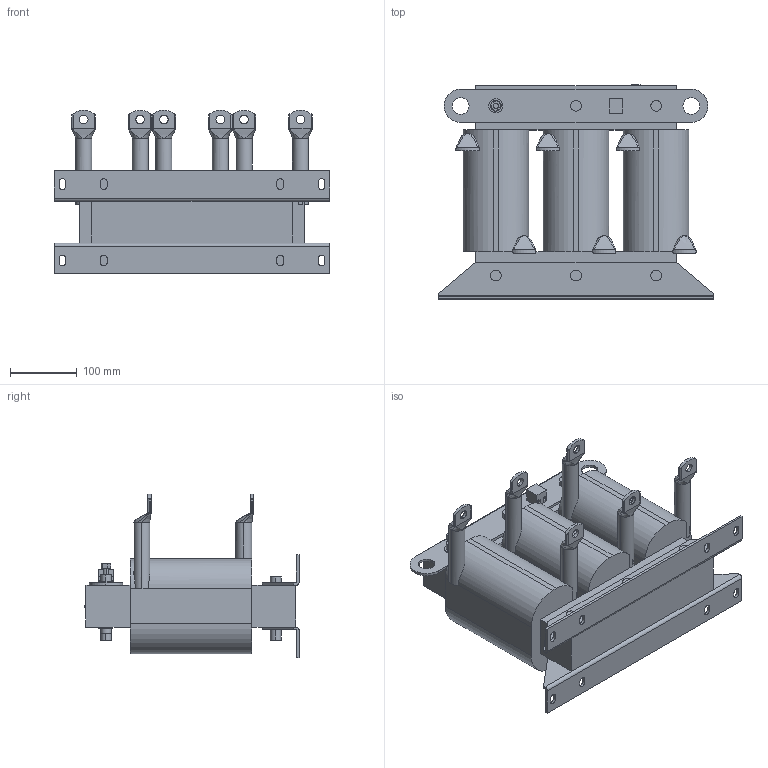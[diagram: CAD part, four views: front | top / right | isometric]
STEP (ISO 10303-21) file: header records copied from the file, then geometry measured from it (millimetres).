
FILE_DESCRIPTION (( 'STEP AP214' ), '1' );
FILE_NAME ('00Z1FX4-0029.STEP', '2022-08-11T10:11:11', ( '' ), ( '' ), 'SwSTEP 2.0', 'SolidWorks 2022', '' );
FILE_SCHEMA (( 'AUTOMOTIVE_DESIGN' ));
Length unit declared in the file: centimetre
Products named in the file (1): 00Z1FX4-0029
Bounding box: 412 x 320.52 x 245 mm (x, y, z)
Volume: 9825556.7 mm3; surface area: 567729.6 mm2
Topology: 1 solids, 1 shells, 401 faces, 1044 edges, 668 vertices
Faces by surface type: plane 193, cylinder 147, bspline 61
Entity records: 16366 total; most frequent: CARTESIAN_POINT 6709, ORIENTED_EDGE 2088, DIRECTION 1711, EDGE_CURVE 1044, VERTEX_POINT 668, AXIS2_PLACEMENT_3D 592, VECTOR 527, LINE 527
